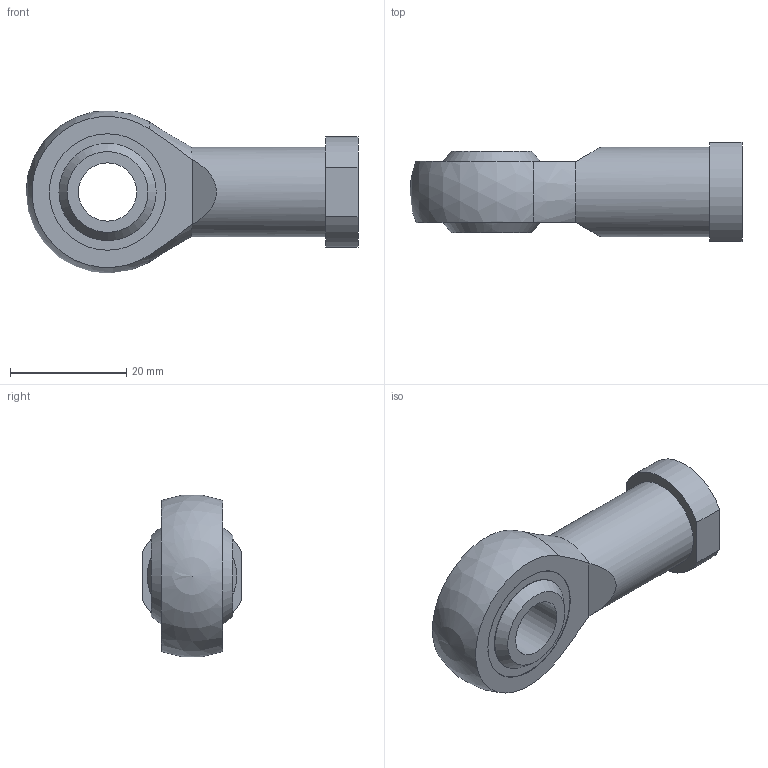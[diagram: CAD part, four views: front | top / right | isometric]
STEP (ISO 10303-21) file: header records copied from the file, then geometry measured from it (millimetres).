
FILE_DESCRIPTION(/* description */ (''),/* implementation_level */ '2;1');
FILE_NAME(/* name */ 'LAOAA-M10.step',/* time_stamp */ '2019-06-06T08:25:39+02:00',/* author */ ('octogon GmbH'),/* organization */ ('octogon GmbH'),/* preprocessor_version */ 'ST-DEVELOPER v15.6',/* originating_system */ 'Autodesk Inventor LT ',/* authorisation */ '');
FILE_SCHEMA (('AUTOMOTIVE_DESIGN { 1 0 10303 214 3 1 1 }'));
Length unit declared in the file: millimetre
Products named in the file (1): LAOAA-M10 rod end, stainless steel, female thread M10
Bounding box: 57 x 17 x 27.73 mm (x, y, z)
Volume: 10544.9 mm3; surface area: 4647 mm2
Topology: 1 solids, 1 shells, 29 faces, 66 edges, 43 vertices
Faces by surface type: plane 12, cylinder 10, cone 4, sphere 3
Full cylindrical faces by diameter (mm): 8.376 x2, 10 x1, 15.352 x1, 16.687 x2, 20 x2
Entity records: 780 total; most frequent: DIRECTION 132, CARTESIAN_POINT 122, ORIENTED_EDGE 94, AXIS2_PLACEMENT_3D 59, EDGE_LOOP 48, EDGE_CURVE 47, VERTEX_POINT 37, STYLED_ITEM 30
